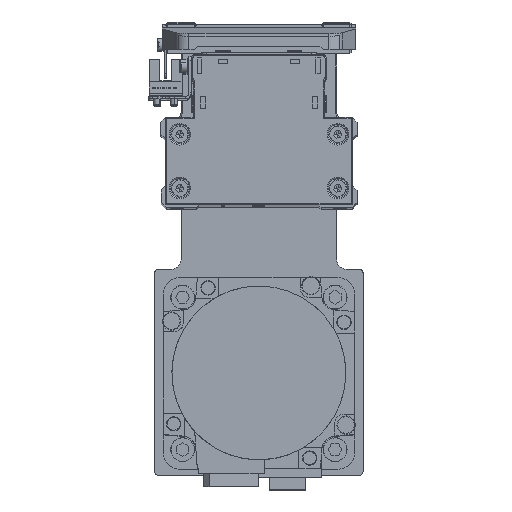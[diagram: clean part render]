
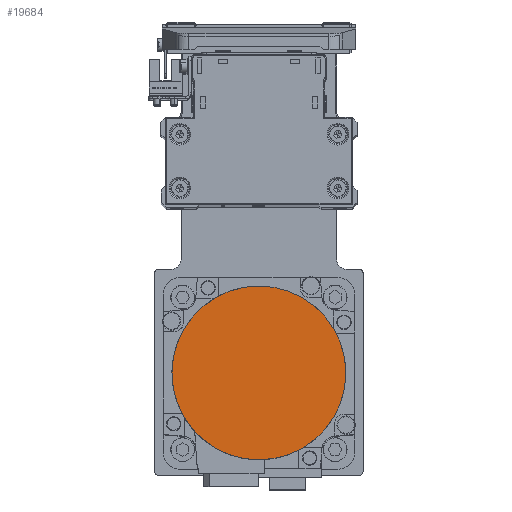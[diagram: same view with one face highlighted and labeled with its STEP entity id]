
A CAD part, top view. The second image highlights one B-rep face of the part: STEP entity #19684.
In plain terms, the highlighted planar face has unit normal (0, 0, 1) as drawn and (0, 0, -1) by its records, which use the part's own axes.
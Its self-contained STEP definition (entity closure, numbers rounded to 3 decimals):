
#1013 = CARTESIAN_POINT ( 'NONE',  ( 0., 0., -122.2 ) ) ;
#2083 = EDGE_CURVE ( 'NONE', #20713, #33247, #4965, .T. ) ;
#4965 = CIRCLE ( 'NONE', #27129, 36.3 ) ;
#6607 = DIRECTION ( 'NONE',  ( 1., 0., 0. ) ) ;
#9346 = EDGE_LOOP ( 'NONE', ( #34832, #22952 ) ) ;
#9564 = PLANE ( 'NONE',  #30255 ) ;
#10112 = DIRECTION ( 'NONE',  ( 0., -1., 0. ) ) ;
#12100 = DIRECTION ( 'NONE',  ( 0., 0., 1. ) ) ;
#17862 = AXIS2_PLACEMENT_3D ( 'NONE', #25192, #37302, #10112 ) ;
#19684 = ADVANCED_FACE ( 'NONE', ( #36743 ), #9564, .F. ) ;
#20713 = VERTEX_POINT ( 'NONE', #29036 ) ;
#21670 = CARTESIAN_POINT ( 'NONE',  ( 0., 0., -122.2 ) ) ;
#22952 = ORIENTED_EDGE ( 'NONE', *, *, #37371, .F. ) ;
#24195 = DIRECTION ( 'NONE',  ( 0., 1., 0. ) ) ;
#25192 = CARTESIAN_POINT ( 'NONE',  ( 0., 0., -122.2 ) ) ;
#27129 = AXIS2_PLACEMENT_3D ( 'NONE', #1013, #12100, #24195 ) ;
#29036 = CARTESIAN_POINT ( 'NONE',  ( 0., 36.3, -122.2 ) ) ;
#30184 = CARTESIAN_POINT ( 'NONE',  ( 0., -36.3, -122.2 ) ) ;
#30255 = AXIS2_PLACEMENT_3D ( 'NONE', #21670, #33767, #6607 ) ;
#33247 = VERTEX_POINT ( 'NONE', #30184 ) ;
#33767 = DIRECTION ( 'NONE',  ( 0., 0., 1. ) ) ;
#34832 = ORIENTED_EDGE ( 'NONE', *, *, #2083, .F. ) ;
#34972 = CIRCLE ( 'NONE', #17862, 36.3 ) ;
#36743 = FACE_OUTER_BOUND ( 'NONE', #9346, .T. ) ;
#37302 = DIRECTION ( 'NONE',  ( 0., 0., 1. ) ) ;
#37371 = EDGE_CURVE ( 'NONE', #33247, #20713, #34972, .T. ) ;
